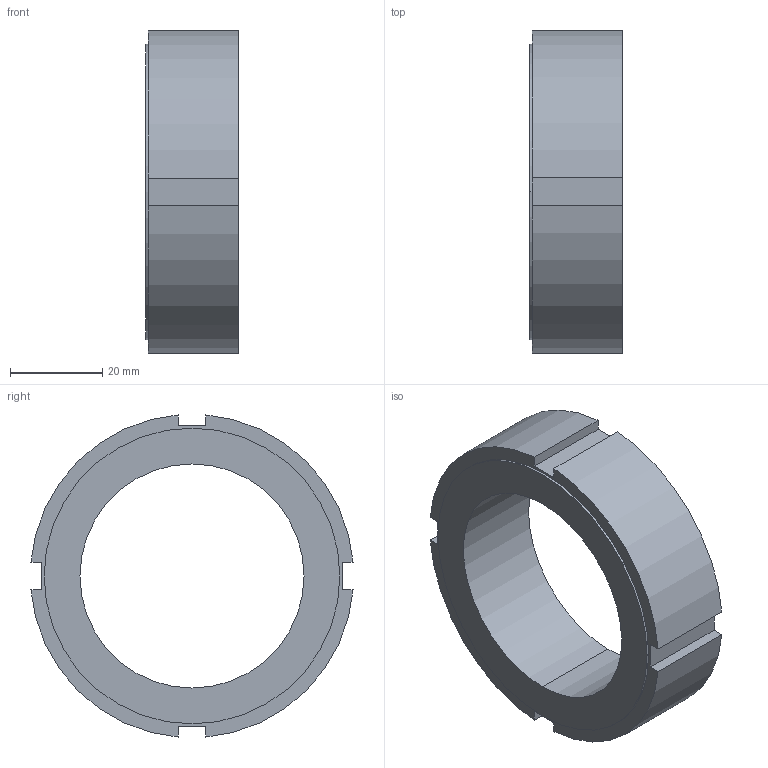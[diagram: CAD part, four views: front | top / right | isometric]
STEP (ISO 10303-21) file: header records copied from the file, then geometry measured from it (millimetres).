
FILE_DESCRIPTION (( 'STEP AP203' ), '1' );
FILE_NAME ('HIA50.STEP', '2002-08-15T11:36:42', ( '.' ), ( '.' ), 'SwSTEP 2.0', 'SolidWorks 2001340', '' );
FILE_SCHEMA (( 'CONFIG_CONTROL_DESIGN' ));
Length unit declared in the file: millimetre
Products named in the file (1): HIA50
Bounding box: 20 x 69.74 x 69.74 mm (x, y, z)
Volume: 38554.3 mm3; surface area: 11689.5 mm2
Topology: 1 solids, 1 shells, 23 faces, 60 edges, 40 vertices
Faces by surface type: plane 15, cylinder 8
Entity records: 791 total; most frequent: CARTESIAN_POINT 124, DIRECTION 124, ORIENTED_EDGE 120, EDGE_CURVE 60, LINE 44, VECTOR 44, VERTEX_POINT 40, AXIS2_PLACEMENT_3D 40
